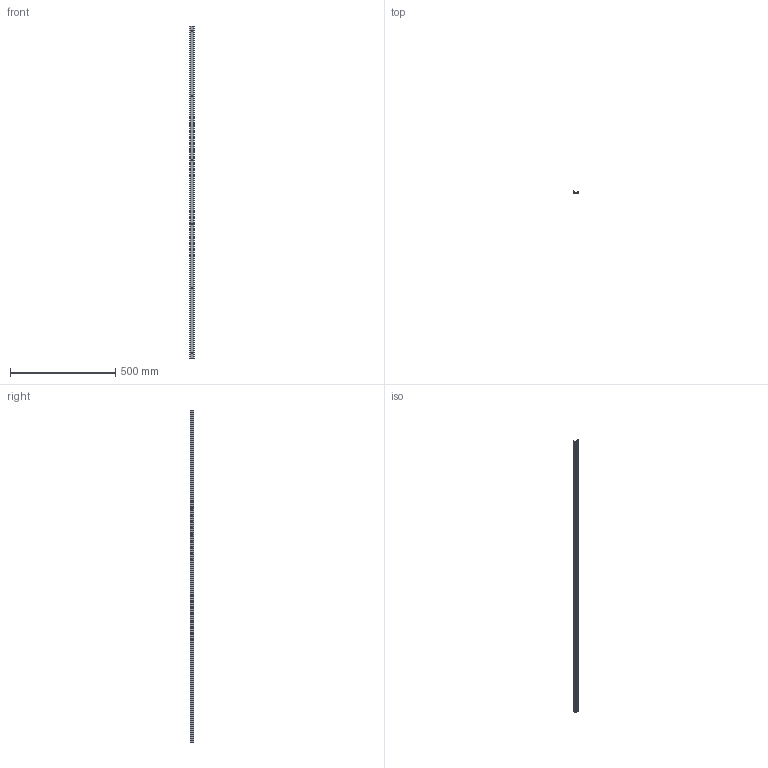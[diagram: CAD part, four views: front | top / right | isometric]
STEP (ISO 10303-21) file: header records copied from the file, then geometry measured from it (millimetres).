
FILE_DESCRIPTION (( 'STEP AP214' ), '1' );
FILE_NAME ('HSG-000402-00 REV C.STEP', '2021-03-02T01:26:01', ( '' ), ( '' ), 'SwSTEP 2.0', 'SolidWorks 2020', '' );
FILE_SCHEMA (( 'AUTOMOTIVE_DESIGN' ));
Length unit declared in the file: millimetre
Products named in the file (1): HSG-000402-00 REV C
Bounding box: 23.7 x 15.5 x 1574.8 mm (x, y, z)
Volume: 120662 mm3; surface area: 179064.7 mm2
Topology: 1 solids, 1 shells, 111 faces, 321 edges, 206 vertices
Faces by surface type: plane 65, cylinder 34, cone 12
Entity records: 3681 total; most frequent: CARTESIAN_POINT 711, ORIENTED_EDGE 642, DIRECTION 601, EDGE_CURVE 321, VECTOR 217, LINE 217, VERTEX_POINT 206, AXIS2_PLACEMENT_3D 192
